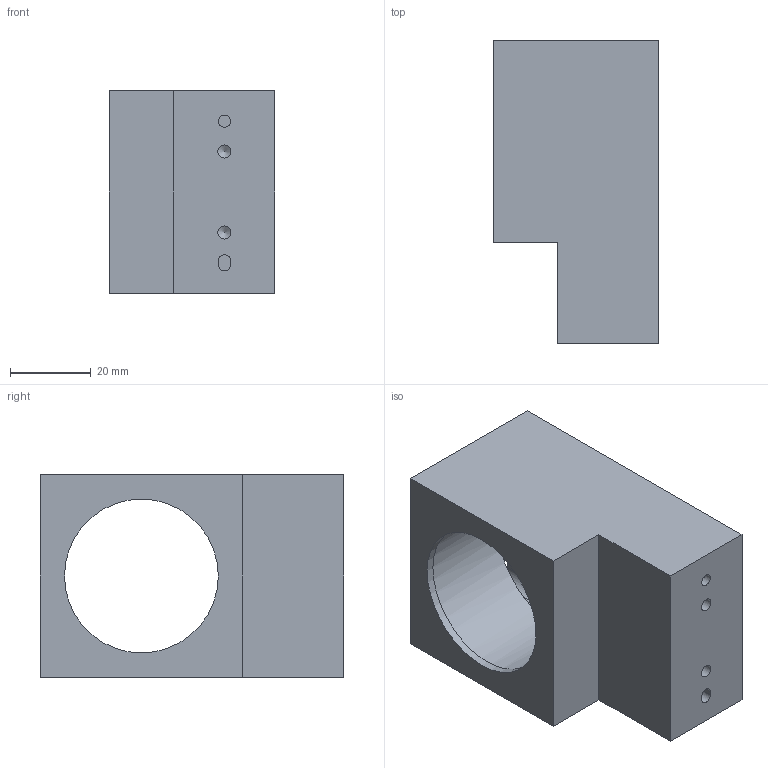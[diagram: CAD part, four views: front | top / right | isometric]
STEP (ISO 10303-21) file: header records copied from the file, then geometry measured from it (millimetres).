
FILE_DESCRIPTION(/* description */ (''),/* implementation_level */ '2;1');
FILE_NAME(/* name */ 'C:\Users\strothej\Documents\ActualDocuments\MicroscopeParts\TwoPhotonSystem\ScanningMechanics\v28\Drawings\Collection_Front_Lens_Mount.stp',/* time_stamp */ '2017-06-09T14:41:02-07:00',/* author */ ('strothej'),/* organization */ (''),/* preprocessor_version */ 'ST-DEVELOPER v16.1',/* originating_system */ 'Autodesk Inventor 2016',/* authorisation */ '');
FILE_SCHEMA (('AUTOMOTIVE_DESIGN { 1 0 10303 214 3 1 1 }'));
Length unit declared in the file: millimetre
Products named in the file (1): Collection_Front_Lens_Mount
Bounding box: 41 x 75 x 50 mm (x, y, z)
Volume: 71765.1 mm3; surface area: 21783.2 mm2
Topology: 1 solids, 1 shells, 44 faces, 111 edges, 72 vertices
Faces by surface type: plane 21, cylinder 17, cone 6
Full cylindrical faces by diameter (mm): 1.567 x4, 3 x1, 3.242 x2, 38 x1, 40.9 x1, 41 x1, 46 x1
Entity records: 1243 total; most frequent: CARTESIAN_POINT 248, DIRECTION 208, ORIENTED_EDGE 172, EDGE_CURVE 86, AXIS2_PLACEMENT_3D 81, EDGE_LOOP 68, VERTEX_POINT 64, LINE 46
